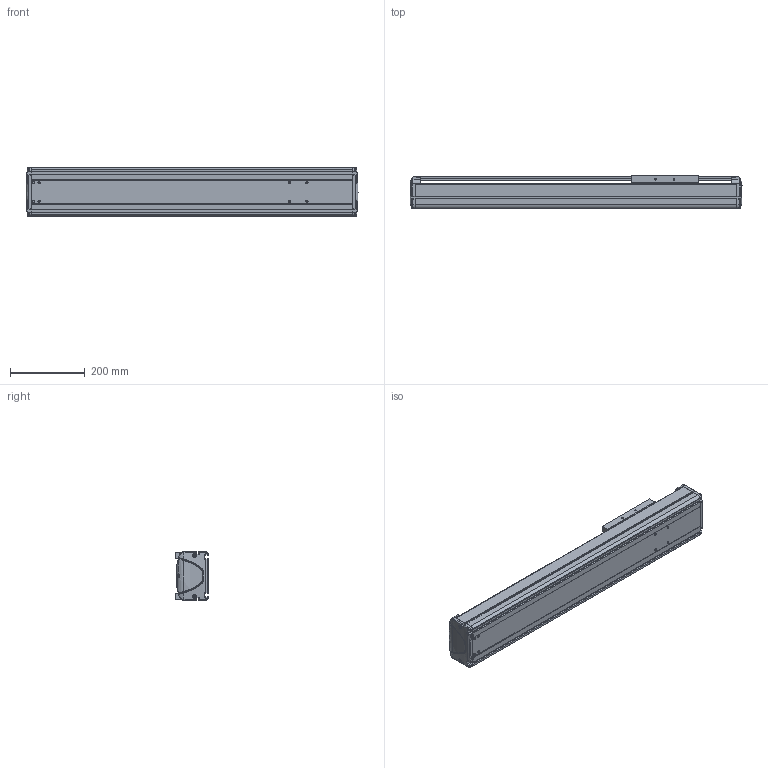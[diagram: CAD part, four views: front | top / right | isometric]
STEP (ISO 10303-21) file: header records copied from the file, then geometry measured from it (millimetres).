
FILE_DESCRIPTION((''),'2;1');
FILE_NAME('BE30E-ST-L_N-55_IGS_PRT','2017-06-17T',(' '),(''),'PRO/ENGINEER BY PARAMETRIC TECHNOLOGY CORPORATION, 2015030','PRO/ENGINEER BY PARAMETRIC TECHNOLOGY CORPORATION, 2015030','');
FILE_SCHEMA(('CONFIG_CONTROL_DESIGN'));
Length unit declared in the file: millimetre
Products named in the file (1): BE30E-ST-L_N-55_IGS_PRT
Bounding box: 890 x 89.8 x 130 mm (x, y, z)
Volume: 2808851.9 mm3; surface area: 1113292.3 mm2
Topology: 3 solids, 82 shells, 1338 faces, 3595 edges, 2354 vertices
Faces by surface type: cylinder 595, plane 588, bspline 55, torus 46, cone 30, sphere 24
Entity records: 44979 total; most frequent: CARTESIAN_POINT 11310, DIRECTION 6946, ORIENTED_EDGE 6838, EDGE_CURVE 3575, AXIS2_PLACEMENT_3D 2504, VERTEX_POINT 2354, VECTOR 1938, LINE 1938
